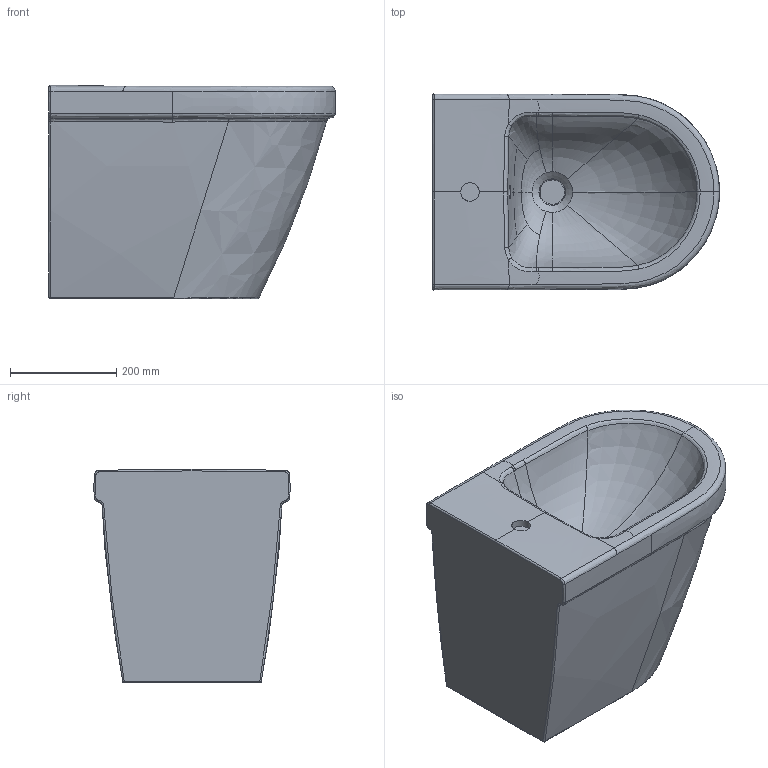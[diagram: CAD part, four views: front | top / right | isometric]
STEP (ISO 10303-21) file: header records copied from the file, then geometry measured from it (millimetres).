
FILE_DESCRIPTION(/* description */ (''),/* implementation_level */ '2;1');
FILE_NAME(/* name */ '448600_0A_Relaunch_SBD.stp',/* time_stamp */ '2019-02-22T08:54:38+01:00',/* author */ (''),/* organization */ (''),/* preprocessor_version */ 'ST-DEVELOPER v16',/* originating_system */ 'SIEMENS PLM Software NX 10.0',/* authorisation */ '');
FILE_SCHEMA (('AUTOMOTIVE_DESIGN { 1 0 10303 214 3 1 1 1 }'));
Length unit declared in the file: millimetre
Products named in the file (1): rupp1328D95Fb9s0
Bounding box: 539.19 x 369.28 x 401.68 mm (x, y, z)
Volume: 47424904 mm3; surface area: 943104.7 mm2
Topology: 1 solids, 1 shells, 87 faces, 223 edges, 133 vertices
Faces by surface type: bspline 74, plane 4, cylinder 4, revolution 2, sphere 2, cone 1
Full cylindrical faces by diameter (mm): 24 x1, 35 x1, 46 x1
Entity records: 16936 total; most frequent: CARTESIAN_POINT 15529, ORIENTED_EDGE 418, EDGE_CURVE 209, B_SPLINE_CURVE_WITH_KNOTS 162, VERTEX_POINT 130, EDGE_LOOP 93, ADVANCED_FACE 87, FACE_OUTER_BOUND 81
